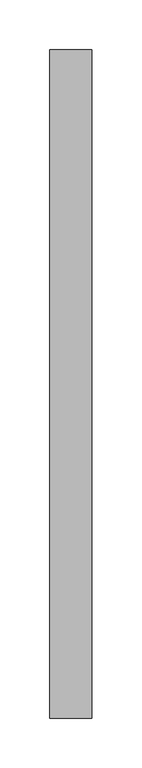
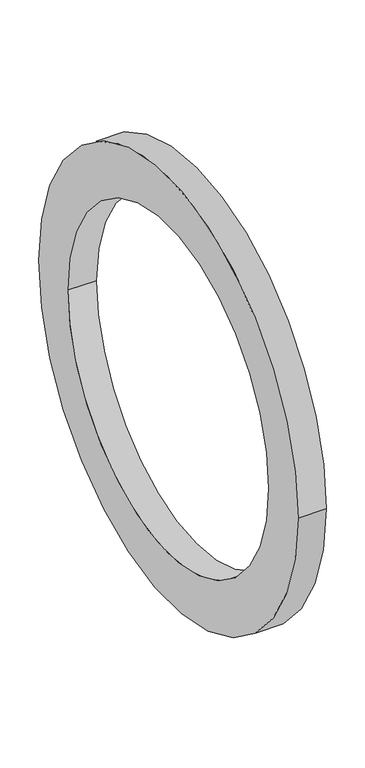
"""IFC4 building model written with IfcOpenShell, lengths in millimetres: pipe fitting geometry, NIRON accesorio brida : Estándar."""

from ifc_helpers import new_model, si_unit, point, frame, origin, origin_2d, place, context, project, spatial, circle_curve, trimmed, segment, composite_curve, outline, extrude, source, transform, mapped, element, save


def pipe_fitting_3c66e32a(model_context):
    return source(origin(), model_context, "Body", "SweptSolid", [
        extrude(outline(composite_curve([segment(trimmed(circle_curve(origin_2d(), 335.0), [point((335.0, 0.0))], [point((-335.0, 0.0))], False, "CARTESIAN"), True, "CONTINUOUS"), segment(trimmed(circle_curve(origin_2d(), 335.0), [point((-335.0, 0.0))], [point((335.0, 0.0))], False, "CARTESIAN"), True, "CONTINUOUS")], self_intersect=False), holes=[composite_curve([segment(trimmed(circle_curve(origin_2d(), 258.5), [point((258.5, 0.0))], [point((-258.5, 0.0))], True, "CARTESIAN"), True, "CONTINUOUS"), segment(trimmed(circle_curve(origin_2d(), 258.5), [point((-258.5, 0.0))], [point((258.5, 0.0))], True, "CARTESIAN"), True, "CONTINUOUS")], self_intersect=False)]), frame((2.4830127, 0.0, 0.0), z_axis=(1.0, 0.0, 0.0), x_axis=(0.0, 1.0, 0.0)), (0.0, 0.0, 1.0), 42.0),
    ])


if __name__ == "__main__":
    model = new_model("IFC4")
    model_context = context("Model", 3, world=origin())
    ifc_project = project(units=[si_unit("LENGTHUNIT", "METRE", prefix="MILLI")], contexts=[model_context])
    site = spatial("IfcSite", under=ifc_project)
    building = spatial("IfcBuilding", under=site)
    placement = place(None, origin())
    pipe_fitting_shape = pipe_fitting_3c66e32a(model_context)
    element("IfcPipeFitting", 1, ObjectType="NIRON accesorio brida : Estándar", at=placement, inside=building, context=model_context, shape_type="MappedRepresentation", body=[
        mapped(pipe_fitting_shape, transform((0.0, 0.0, 0.0), x_axis=(1.0, 0.0, 0.0), y_axis=(0.0, 1.0, 0.0), z_axis=(0.0, 0.0, 1.0))),
    ])
    save(model, "model.ifc")
